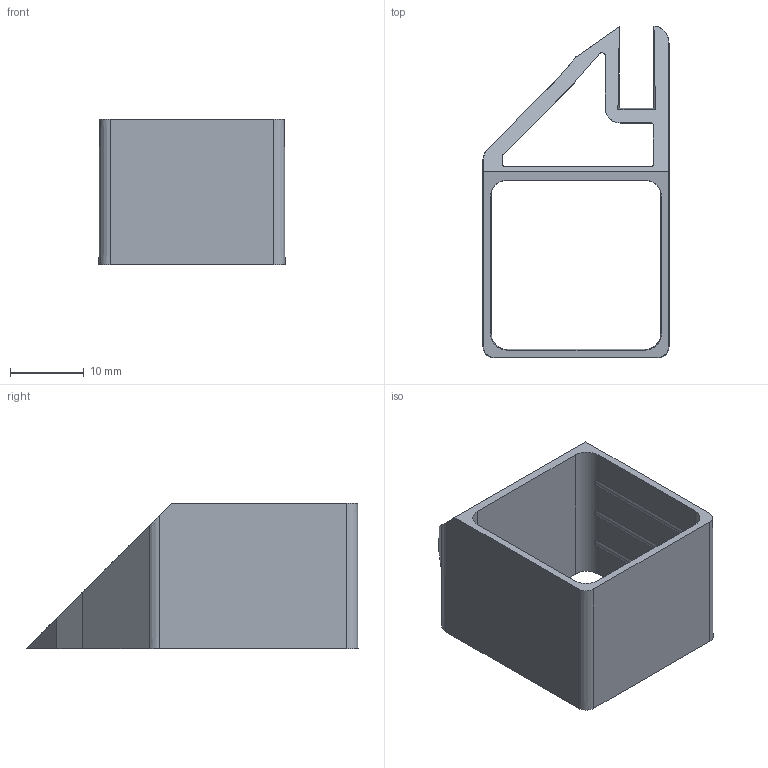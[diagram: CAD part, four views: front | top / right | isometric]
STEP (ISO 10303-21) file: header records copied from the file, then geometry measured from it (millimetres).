
FILE_DESCRIPTION (( 'STEP AP214' ), '1' );
FILE_NAME ('L15877A.step', '2024-12-03T16:20:34', ( '' ), ( '' ), 'SwSTEP 2.0', 'SolidWorks 2023', '' );
FILE_SCHEMA (( 'AUTOMOTIVE_DESIGN' ));
Length unit declared in the file: millimetre
Products named in the file (1): L15877A
Bounding box: 25.3 x 45.15 x 19.85 mm (x, y, z)
Volume: 3533.6 mm3; surface area: 5293.7 mm2
Topology: 1 solids, 1 shells, 67 faces, 171 edges, 106 vertices
Faces by surface type: plane 32, cylinder 25, bspline 6, cone 4
Entity records: 2170 total; most frequent: CARTESIAN_POINT 555, ORIENTED_EDGE 342, DIRECTION 321, EDGE_CURVE 171, LINE 113, VECTOR 113, VERTEX_POINT 106, AXIS2_PLACEMENT_3D 104
